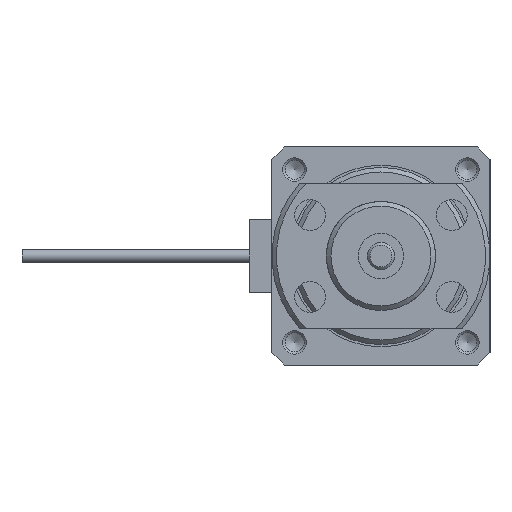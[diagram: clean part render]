
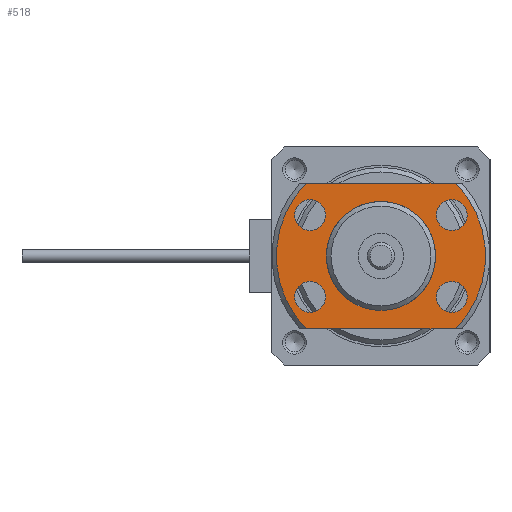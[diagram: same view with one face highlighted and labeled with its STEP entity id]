
A CAD part, left-side view. The second image highlights one B-rep face of the part: STEP entity #518.
In plain terms, the highlighted planar face has unit normal (-1, 0, 0) as drawn and (0, 0, 1) by its records, which use the part's own axes.
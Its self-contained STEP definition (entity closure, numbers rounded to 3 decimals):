
#518 = ADVANCED_FACE( '', ( #1162, #1163, #1164, #1165, #1166, #1167 ), #1168, .F. );
#1162 = FACE_OUTER_BOUND( '', #1987, .T. );
#1163 = FACE_BOUND( '', #1988, .T. );
#1164 = FACE_BOUND( '', #1989, .T. );
#1165 = FACE_BOUND( '', #1990, .T. );
#1166 = FACE_BOUND( '', #1991, .T. );
#1167 = FACE_BOUND( '', #1992, .T. );
#1168 = PLANE( '', #1993 );
#1987 = EDGE_LOOP( '', ( #3422, #3423, #3424, #3425 ) );
#1988 = EDGE_LOOP( '', ( #3426 ) );
#1989 = EDGE_LOOP( '', ( #3427 ) );
#1990 = EDGE_LOOP( '', ( #3428 ) );
#1991 = EDGE_LOOP( '', ( #3429 ) );
#1992 = EDGE_LOOP( '', ( #3430 ) );
#1993 = AXIS2_PLACEMENT_3D( '', #3431, #3432, #3433 );
#3422 = ORIENTED_EDGE( '', *, *, #4936, .F. );
#3423 = ORIENTED_EDGE( '', *, *, #4815, .T. );
#3424 = ORIENTED_EDGE( '', *, *, #5021, .F. );
#3425 = ORIENTED_EDGE( '', *, *, #5022, .T. );
#3426 = ORIENTED_EDGE( '', *, *, #4541, .F. );
#3427 = ORIENTED_EDGE( '', *, *, #4694, .F. );
#3428 = ORIENTED_EDGE( '', *, *, #4907, .F. );
#3429 = ORIENTED_EDGE( '', *, *, #4761, .F. );
#3430 = ORIENTED_EDGE( '', *, *, #5023, .T. );
#3431 = CARTESIAN_POINT( '', ( 0., 0., -18. ) );
#3432 = DIRECTION( '', ( 0., 0., -1. ) );
#3433 = DIRECTION( '', ( -1., 0., 0. ) );
#4541 = EDGE_CURVE( '', #5330, #5330, #5331, .T. );
#4694 = EDGE_CURVE( '', #5602, #5602, #5603, .T. );
#4761 = EDGE_CURVE( '', #5710, #5710, #5711, .T. );
#4815 = EDGE_CURVE( '', #5785, #5798, #5800, .T. );
#4907 = EDGE_CURVE( '', #5939, #5939, #5940, .T. );
#4936 = EDGE_CURVE( '', #5785, #5985, #5986, .T. );
#5021 = EDGE_CURVE( '', #6114, #5798, #6115, .T. );
#5022 = EDGE_CURVE( '', #6114, #5985, #6116, .T. );
#5023 = EDGE_CURVE( '', #6117, #6117, #6118, .T. );
#5330 = VERTEX_POINT( '', #6499 );
#5331 = CIRCLE( '', #6500, 1.7 );
#5602 = VERTEX_POINT( '', #6984 );
#5603 = CIRCLE( '', #6985, 1.7 );
#5710 = VERTEX_POINT( '', #7135 );
#5711 = CIRCLE( '', #7136, 1.7 );
#5785 = VERTEX_POINT( '', #7245 );
#5798 = VERTEX_POINT( '', #7270 );
#5800 = LINE( '', #7275, #7276 );
#5939 = VERTEX_POINT( '', #7475 );
#5940 = CIRCLE( '', #7476, 1.7 );
#5985 = VERTEX_POINT( '', #7585 );
#5986 = CIRCLE( '', #7586, 11.5 );
#6114 = VERTEX_POINT( '', #7773 );
#6115 = CIRCLE( '', #7774, 11.5 );
#6116 = LINE( '', #7775, #7776 );
#6117 = VERTEX_POINT( '', #7777 );
#6118 = CIRCLE( '', #7778, 5.75 );
#6499 = CARTESIAN_POINT( '', ( 6.2, -7.794, -18. ) );
#6500 = AXIS2_PLACEMENT_3D( '', #8410, #8411, #8412 );
#6984 = CARTESIAN_POINT( '', ( -2.8, -7.794, -18. ) );
#6985 = AXIS2_PLACEMENT_3D( '', #8569, #8570, #8571 );
#7135 = CARTESIAN_POINT( '', ( -2.8, 7.794, -18. ) );
#7136 = AXIS2_PLACEMENT_3D( '', #8647, #8648, #8649 );
#7245 = CARTESIAN_POINT( '', ( -8., 8.261, -18. ) );
#7270 = CARTESIAN_POINT( '', ( -8., -8.261, -18. ) );
#7275 = CARTESIAN_POINT( '', ( -8., 20., -18. ) );
#7276 = VECTOR( '', #8700, 1000. );
#7475 = CARTESIAN_POINT( '', ( 6.2, 7.794, -18. ) );
#7476 = AXIS2_PLACEMENT_3D( '', #8813, #8814, #8815 );
#7585 = CARTESIAN_POINT( '', ( 8., 8.261, -18. ) );
#7586 = AXIS2_PLACEMENT_3D( '', #8831, #8832, #8833 );
#7773 = CARTESIAN_POINT( '', ( 8., -8.261, -18. ) );
#7774 = AXIS2_PLACEMENT_3D( '', #8919, #8920, #8921 );
#7775 = CARTESIAN_POINT( '', ( 8., -20., -18. ) );
#7776 = VECTOR( '', #8922, 1000. );
#7777 = CARTESIAN_POINT( '', ( -5.75, 0., -18. ) );
#7778 = AXIS2_PLACEMENT_3D( '', #8923, #8924, #8925 );
#8410 = CARTESIAN_POINT( '', ( 4.5, -7.794, -18. ) );
#8411 = DIRECTION( '', ( 0., 0., 1. ) );
#8412 = DIRECTION( '', ( 1., 0., 0. ) );
#8569 = CARTESIAN_POINT( '', ( -4.5, -7.794, -18. ) );
#8570 = DIRECTION( '', ( 0., 0., 1. ) );
#8571 = DIRECTION( '', ( 1., 0., 0. ) );
#8647 = CARTESIAN_POINT( '', ( -4.5, 7.794, -18. ) );
#8648 = DIRECTION( '', ( 0., 0., 1. ) );
#8649 = DIRECTION( '', ( 1., 0., 0. ) );
#8700 = DIRECTION( '', ( 0., -1., 0. ) );
#8813 = CARTESIAN_POINT( '', ( 4.5, 7.794, -18. ) );
#8814 = DIRECTION( '', ( 0., 0., 1. ) );
#8815 = DIRECTION( '', ( 1., 0., 0. ) );
#8831 = CARTESIAN_POINT( '', ( 0., 0., -18. ) );
#8832 = DIRECTION( '', ( 0., 0., -1. ) );
#8833 = DIRECTION( '', ( -1., 0., 0. ) );
#8919 = CARTESIAN_POINT( '', ( 0., 0., -18. ) );
#8920 = DIRECTION( '', ( 0., 0., -1. ) );
#8921 = DIRECTION( '', ( -1., 0., 0. ) );
#8922 = DIRECTION( '', ( 0., 1., 0. ) );
#8923 = CARTESIAN_POINT( '', ( 0., 0., -18. ) );
#8924 = DIRECTION( '', ( 0., 0., -1. ) );
#8925 = DIRECTION( '', ( -1., 0., 0. ) );
